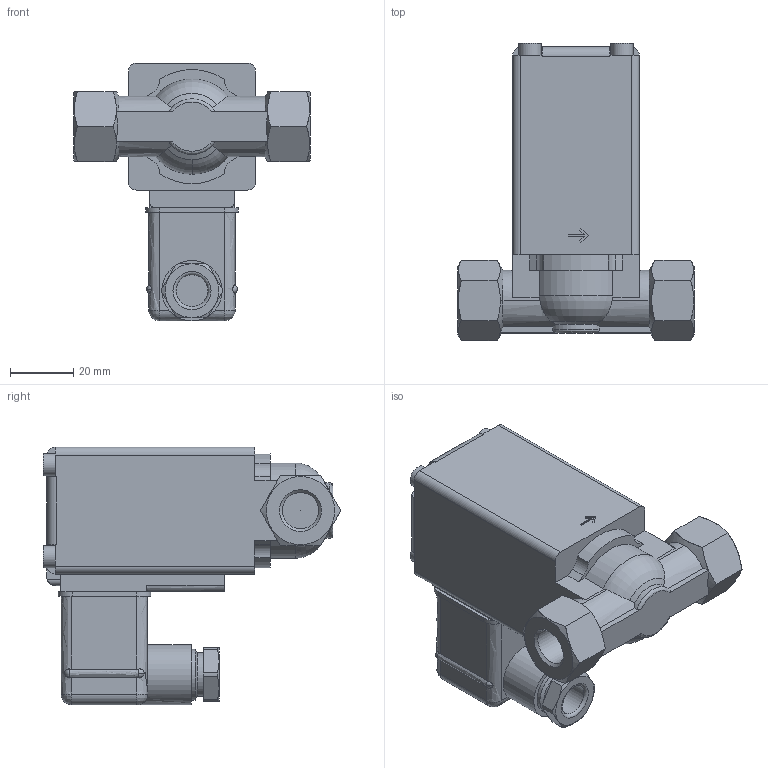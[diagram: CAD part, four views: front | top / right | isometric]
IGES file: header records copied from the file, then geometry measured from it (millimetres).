
Start section: Data from Parasolid IGES Translator 26.0.171, Copyright(c) 2006 Siemens PLM Software. All Rights Reserved.
Global section: file name: 0256-022688-2_2-way_Solenoid_Valve.igs; native system: By Siemens PLM Incorporated; preprocessor: XPlus GENERIC/IGES 26.0.171; author: Noname; organization: Noname; date: 20240805.171019; units: millimetre
Bounding box: 74.5 x 93.8 x 81.2 mm (x, y, z)
Surface area: 27041.1 mm2 (no closed solid volume)
Topology: 0 solids, 0 shells, 236 faces, 1318 edges, 1300 vertices
Faces by surface type: extrusion 129, revolution 107
